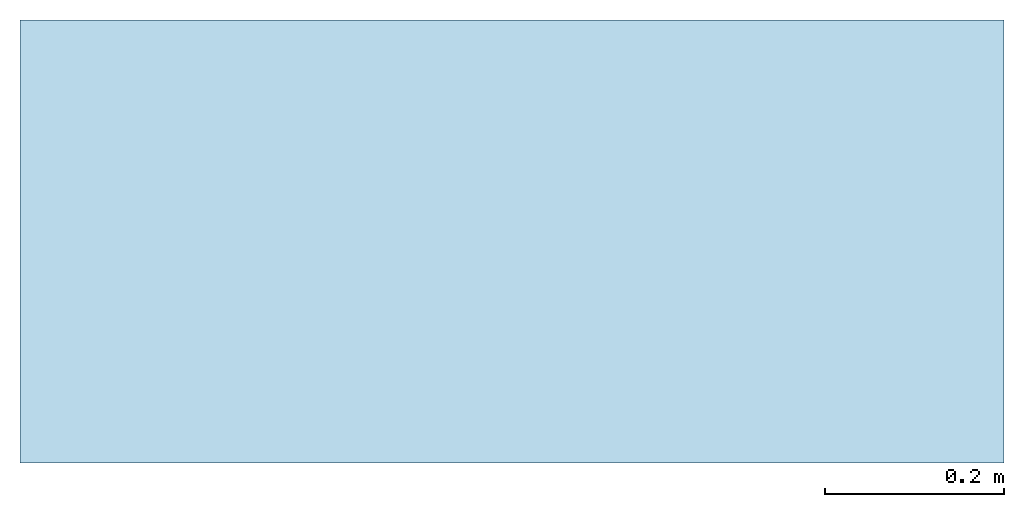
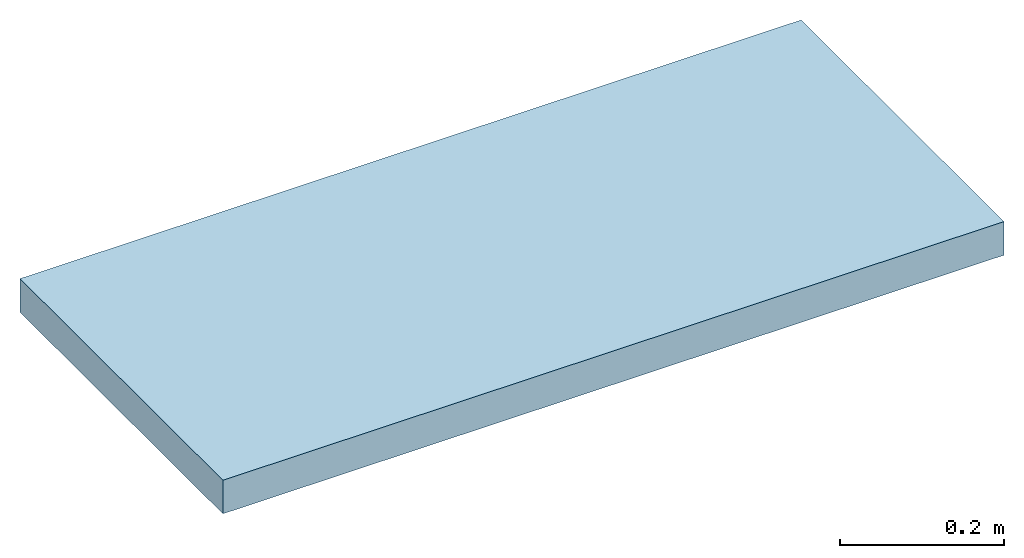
# One storey: 1 slab.
"""IFC4 building model written with IfcOpenShell, lengths in metres."""

import ifcopenshell
import ifcopenshell.guid

model = None  # the IFC model being written
_history = None  # IfcOwnerHistory: only IFC2X3 demands one
_inside = {}  # id of a spatial element -> (the spatial element, [elements in it])
_under = {}  # id of a project, library or spatial element -> (it, [spatial elements below it])
_declared = {}  # id of a project -> (the project, [libraries it declares])
_typed = {}  # id of a type object -> (the type object, [elements of that type])
_made_of = {}  # id of a material, layer set ... -> (it, [elements and type objects made of it])


def new_model(schema):
    """Start an empty IFC model of exactly this schema.

    Asked for "IFC4X3", IfcOpenShell would pick the latest addendum, in which some entities
    have other attributes; the version numbers below select the first issue.
    IFC2X3 requires an IfcOwnerHistory on every rooted entity: one is made here for all.
    """
    global model, _history
    if schema == "IFC4X3":
        model = ifcopenshell.file(schema_version=(4, 3, 0, 0))
    else:
        model = ifcopenshell.file(schema=schema)
    _inside.clear()
    _under.clear()
    _declared.clear()
    _typed.clear()
    _made_of.clear()
    _history = None
    if model.schema == "IFC2X3":
        org = make("IfcOrganization", Name="unknown")
        user = make(
            "IfcPersonAndOrganization",
            ThePerson=make("IfcPerson", FamilyName="unknown"),
            TheOrganization=org,
        )
        app = make(
            "IfcApplication",
            ApplicationDeveloper=org,
            Version="unknown",
            ApplicationFullName="unknown",
            ApplicationIdentifier="unknown",
        )
        _history = make(
            "IfcOwnerHistory",
            OwningUser=user,
            OwningApplication=app,
            ChangeAction="ADDED",
            CreationDate=0,
        )
    return model


def make(cls, **values):
    """One entity of the class cls with the attributes given. An attribute that is None is left unset."""
    return model.create_entity(
        cls, **{name: value for name, value in values.items() if value is not None}
    )


def entity(cls, *values):
    """Any entity or typed value of the class cls, its attributes in the order of the schema. None: left unset."""
    e = model.create_entity(cls)
    for i, value in enumerate(values):
        if value is not None:
            e[i] = value
    return e


def rooted(cls, **values):
    """An entity with a GlobalId (a new one), such as an element, a storey or a relation."""
    return make(cls, GlobalId=ifcopenshell.guid.new(), OwnerHistory=_history, **values)


def si_unit(unit_type, name, prefix=None):
    """IfcSIUnit, for example si_unit("LENGTHUNIT", "METRE", prefix="MILLI")."""
    return make("IfcSIUnit", UnitType=unit_type, Prefix=prefix, Name=name)


def converted_unit(unit_type, name, factor, base, dimensions=None, offset=None):
    """IfcConversionBasedUnit, such as the inch: factor (a typed value) times the base unit."""
    return make(
        "IfcConversionBasedUnit"
        if offset is None
        else "IfcConversionBasedUnitWithOffset",
        ConversionOffset=offset,
        Dimensions=None
        if dimensions is None
        else entity("IfcDimensionalExponents", *dimensions),
        UnitType=unit_type,
        Name=name,
        ConversionFactor=make(
            "IfcMeasureWithUnit", ValueComponent=factor, UnitComponent=base
        ),
    )


def assignment(units):
    """IfcUnitAssignment: the units of a project."""
    return None if units is None else make("IfcUnitAssignment", Units=units)


def point(xyz):
    """IfcCartesianPoint."""
    return None if xyz is None else make("IfcCartesianPoint", Coordinates=xyz)


def direction(xyz):
    """IfcDirection."""
    return None if xyz is None else make("IfcDirection", DirectionRatios=xyz)


def frame(location, z_axis=None, x_axis=None):
    """IfcAxis2Placement3D, a coordinate frame: its origin and axes. An axis left out is left unset."""
    return make(
        "IfcAxis2Placement3D",
        Location=point(location),
        Axis=direction(z_axis),
        RefDirection=direction(x_axis),
    )


def frame_2d(location, x_axis=None):
    """IfcAxis2Placement2D, a coordinate frame in the plane: its origin and x axis."""
    return make(
        "IfcAxis2Placement2D", Location=point(location), RefDirection=direction(x_axis)
    )


def origin():
    """The frame at (0, 0, 0) with its axes left unset."""
    return frame((0.0, 0.0, 0.0))


def place(relative_to, where):
    """IfcLocalPlacement: puts the frame where relative to a parent placement (None: the world)."""
    return make(
        "IfcLocalPlacement", PlacementRelTo=relative_to, RelativePlacement=where
    )


def context(
    kind, dimensions, precision=None, world=None, true_north=None, identifier=None
):
    """IfcGeometricRepresentationContext, for example the 3D "Model" context."""
    return make(
        "IfcGeometricRepresentationContext",
        ContextIdentifier=identifier,
        ContextType=kind,
        CoordinateSpaceDimension=dimensions,
        Precision=precision,
        WorldCoordinateSystem=world,
        TrueNorth=true_north,
    )


def subcontext(parent, identifier, kind, view, scale=None):
    """IfcGeometricRepresentationSubContext, for example "Body" below "Model"."""
    return make(
        "IfcGeometricRepresentationSubContext",
        ContextIdentifier=identifier,
        ContextType=kind,
        ParentContext=parent,
        TargetScale=scale,
        TargetView=view,
    )


def project(units=None, contexts=None):
    """IfcProject with its units and contexts."""
    return rooted(
        "IfcProject",
        Name="project",
        RepresentationContexts=contexts,
        UnitsInContext=assignment(units),
    )


def spatial(cls, under=None, at=None, **own):
    """A site, building, storey or space (cls), placed at a placement, below another one or the project."""
    s = rooted(cls, ObjectPlacement=at, **own)
    if under is not None:
        _under.setdefault(under.id(), (under, []))[1].append(s)
    return s


def profile(cls, at=None, kind="AREA", **sizes):
    """A parametric profile (cls). Its sizes go by their IFC names, for example OverallWidth=200.0."""
    return make(cls, ProfileType=kind, Position=at, **sizes)


def rectangle(**sizes):
    """IfcRectangleProfileDef."""
    return profile("IfcRectangleProfileDef", **sizes)


def extrude(swept, where, along, depth):
    """IfcExtrudedAreaSolid: the profile swept, set in the frame where, extruded along a direction by depth."""
    return make(
        "IfcExtrudedAreaSolid",
        SweptArea=swept,
        Position=where,
        ExtrudedDirection=direction(along),
        Depth=depth,
    )


def shape(context_of_items, identifier, shape_type, items):
    """IfcShapeRepresentation: the items that make up one representation, for example the "Body"."""
    return make(
        "IfcShapeRepresentation",
        ContextOfItems=context_of_items,
        RepresentationIdentifier=identifier,
        RepresentationType=shape_type,
        Items=items,
    )


def material(Name=None, Category=None):
    """IfcMaterial."""
    return make("IfcMaterial", Name=Name, Category=Category)


def made_of(thing, what):
    """Note that an element or type object is made of a material, layer set ...; save() writes the relation."""
    if what is not None:
        _made_of.setdefault(what.id(), (what, []))[1].append(thing)
    return thing


def type_object(cls, material=None, **own):
    """A type object (cls), such as IfcWallType, which elements share."""
    return made_of(rooted(cls, **own), material)


def element(
    cls,
    number,
    at=None,
    inside=None,
    cuts=None,
    type_object=None,
    material=None,
    context=None,
    identifier="Body",
    shape_type=None,
    held_by="IfcProductDefinitionShape",
    body=None,
    shapes=None,
    **own,
):
    """One element of the class cls, such as IfcWall. Its Tag is "e" and its number.

    at: its placement. inside: the storey or other place that contains it. cuts: it is an
    opening in that element (IfcRelVoidsElement). A single representation is given by context,
    identifier, shape_type and body (its items); several are given by shapes. held_by: the class
    of the entity that holds the representations. save() writes the other relations.
    """
    e = rooted(cls, Tag="e%d" % number, ObjectPlacement=at, **own)
    if body is not None:
        shapes = [shape(context, identifier, shape_type, body)]
    if shapes is not None:
        e.Representation = make(held_by, Representations=shapes)
    if inside is not None:
        _inside.setdefault(inside.id(), (inside, []))[1].append(e)
    if cuts is not None:
        rooted(
            "IfcRelVoidsElement", RelatingBuildingElement=cuts, RelatedOpeningElement=e
        )
    if type_object is not None:
        _typed.setdefault(type_object.id(), (type_object, []))[1].append(e)
    return made_of(e, material)


def aggregate(whole, parts):
    """IfcRelAggregates: a whole, such as a stair, and the parts it consists of."""
    return rooted("IfcRelAggregates", RelatingObject=whole, RelatedObjects=parts)


def save(model, path):
    """Write the relations noted so far, then the file.

    IfcRelAggregates (storeys below a building ...), IfcRelContainedInSpatialStructure (elements
    in a storey), IfcRelDefinesByType, IfcRelAssociatesMaterial and IfcRelDeclares: one each for
    every whole, place, type object, material and project.
    """
    for whole, parts in _under.values():
        aggregate(whole, parts)
    for where, things in _inside.values():
        rooted(
            "IfcRelContainedInSpatialStructure",
            RelatedElements=things,
            RelatingStructure=where,
        )
    for kind, things in _typed.values():
        rooted("IfcRelDefinesByType", RelatedObjects=things, RelatingType=kind)
    for what, things in _made_of.values():
        rooted("IfcRelAssociatesMaterial", RelatedObjects=things, RelatingMaterial=what)
    for by, libraries in _declared.values():
        rooted("IfcRelDeclares", RelatingContext=by, RelatedDefinitions=libraries)
    model.write(path)


model = new_model("IFC4")

# Units and contexts
model_context = context("Model", 3, precision=1e-05, world=origin(), true_north=direction((6.123031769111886e-17, 1.0)))
body_context = subcontext(model_context, "Body", "Model", "MODEL_VIEW")
ifc_project = project(units=[si_unit("LENGTHUNIT", "METRE"), converted_unit("PLANEANGLEUNIT", "DEGREE", entity("IfcPlaneAngleMeasure", 0.017453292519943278), si_unit("PLANEANGLEUNIT", "RADIAN"), dimensions=[0, 0, 0, 0, 0, 0, 0]), si_unit("AREAUNIT", "SQUARE_METRE")], contexts=[model_context])

# Site, building, storey
site_placement = place(None, origin())
site = spatial("IfcSite", under=ifc_project, at=site_placement, Name="Default", CompositionType="ELEMENT")
building_placement = place(site_placement, origin())
building = spatial("IfcBuilding", under=site, at=building_placement, CompositionType="ELEMENT")
storey_placement = place(building_placement, origin())
storey = spatial("IfcBuildingStorey", under=building, at=storey_placement, Name="Ebene 0", CompositionType="ELEMENT", Elevation=0.0)

# Slab
ifc_material = material(Name="DB_Magerbeton", Category="DB_Beton")
slab_type = type_object("IfcSlabType", Name="DB_ABS_Winkelstuetze_Pass_Sauberkeitsschicht:DB_ABS_Winkelstuetze_Pass_Sauberkeitsschicht", PredefinedType="BASESLAB", material=ifc_material)
slab_placement = place(storey_placement, origin())
element("IfcSlab", 1, at=slab_placement, inside=storey, type_object=slab_type, Name="DB_ABS_Winkelstuetze_Pass_Sauberkeitsschicht:DB_ABS_Winkelstuetze_Pass_Sauberkeitsschicht", ObjectType="DB_ABS_Winkelstuetze_Pass_Sauberkeitsschicht:DB_ABS_Winkelstuetze_Pass_Sauberkeitsschicht", PredefinedType="BASESLAB", context=body_context, shape_type="SweptSolid", body=[
    extrude(rectangle(XDim=1.0999999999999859, YDim=0.4949999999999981, at=frame_2d((0.0, 5.134781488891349e-16), x_axis=(1.0, 0.0))), frame((0.5000000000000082, 0.24999999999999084, -0.050000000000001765)), (0.0, 0.0, 1.0), 0.0499999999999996),
])

save(model, "model.ifc")
